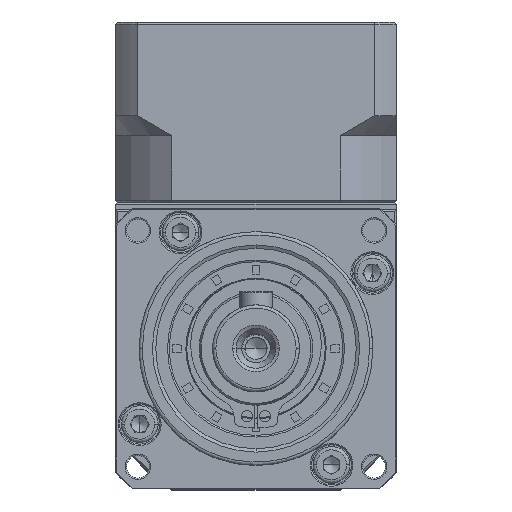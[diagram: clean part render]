
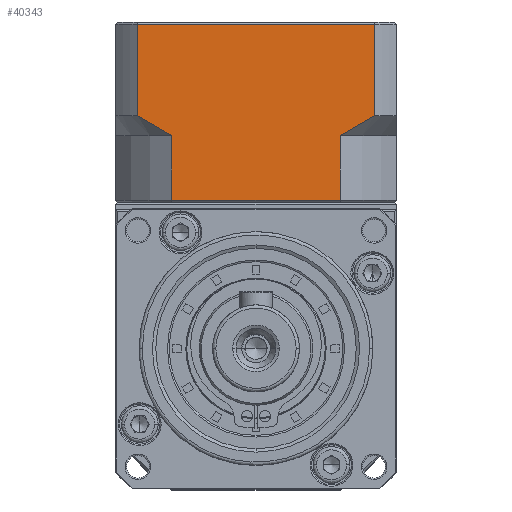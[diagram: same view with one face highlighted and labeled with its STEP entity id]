
A CAD part, top view. The second image highlights one B-rep face of the part: STEP entity #40343.
In plain terms, the highlighted planar face has unit normal (0, 0, 1).
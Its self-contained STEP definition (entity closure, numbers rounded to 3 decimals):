
#2139 = EDGE_LOOP ( 'NONE', ( #115685, #25116, #38378, #55560, #138287, #63469, #72155, #28824 ) ) ;
#6422 = EDGE_CURVE ( 'NONE', #137181, #97849, #121062, .T. ) ;
#8367 = LINE ( 'NONE', #30860, #125230 ) ;
#8723 = CARTESIAN_POINT ( 'NONE',  ( -7.901, 36.129, 88.152 ) ) ;
#8745 = DIRECTION ( 'NONE',  ( 0., 0., 1. ) ) ;
#12517 = EDGE_CURVE ( 'NONE', #34225, #97849, #51525, .T. ) ;
#18385 = LINE ( 'NONE', #116358, #74959 ) ;
#19774 = AXIS2_PLACEMENT_3D ( 'NONE', #76461, #8745, #87808 ) ;
#25116 = ORIENTED_EDGE ( 'NONE', *, *, #125843, .T. ) ;
#25703 = DIRECTION ( 'NONE',  ( -1., 0., 0. ) ) ;
#26755 = CARTESIAN_POINT ( 'NONE',  ( -36.67, 36.129, 88.152 ) ) ;
#28824 = ORIENTED_EDGE ( 'NONE', *, *, #133051, .T. ) ;
#29064 = LINE ( 'NONE', #117085, #146006 ) ;
#30860 = CARTESIAN_POINT ( 'NONE',  ( -40.041, 25.22, 88.152 ) ) ;
#30962 = PLANE ( 'NONE',  #19774 ) ;
#31646 = VERTEX_POINT ( 'NONE', #55115 ) ;
#33895 = VERTEX_POINT ( 'NONE', #120143 ) ;
#34225 = VERTEX_POINT ( 'NONE', #47255 ) ;
#38378 = ORIENTED_EDGE ( 'NONE', *, *, #12517, .T. ) ;
#40056 = DIRECTION ( 'NONE',  ( 0., 1., 0. ) ) ;
#40239 = CARTESIAN_POINT ( 'NONE',  ( -34.905, 25.52, 88.152 ) ) ;
#40343 = ADVANCED_FACE ( 'NONE', ( #104053 ), #30962, .T. ) ;
#41461 = B_SPLINE_CURVE_WITH_KNOTS ( 'NONE', 3,
 ( #99161, #8723, #110580, #42760 ),
 .UNSPECIFIED., .F., .F.,
 ( 4, 4 ),
 ( 0., 0.006 ),
 .UNSPECIFIED. ) ;
#42760 = CARTESIAN_POINT ( 'NONE',  ( -4.53, 38.22, 88.152 ) ) ;
#47255 = CARTESIAN_POINT ( 'NONE',  ( -34.905, 35.22, 88.152 ) ) ;
#48025 = VECTOR ( 'NONE', #131073, 1000. ) ;
#51525 = LINE ( 'NONE', #74555, #48025 ) ;
#53575 = DIRECTION ( 'NONE',  ( 0., -1., 0. ) ) ;
#55115 = CARTESIAN_POINT ( 'NONE',  ( -9.666, 35.22, 88.152 ) ) ;
#55560 = ORIENTED_EDGE ( 'NONE', *, *, #6422, .F. ) ;
#63469 = ORIENTED_EDGE ( 'NONE', *, *, #129511, .T. ) ;
#67689 = EDGE_CURVE ( 'NONE', #136419, #141948, #84955, .T. ) ;
#71753 = CARTESIAN_POINT ( 'NONE',  ( -38.373, 37.143, 88.152 ) ) ;
#72155 = ORIENTED_EDGE ( 'NONE', *, *, #67689, .T. ) ;
#72244 = CARTESIAN_POINT ( 'NONE',  ( -9.666, 25.52, 88.152 ) ) ;
#74555 = CARTESIAN_POINT ( 'NONE',  ( -34.905, 25.22, 88.152 ) ) ;
#74959 = VECTOR ( 'NONE', #127825, 1000. ) ;
#76461 = CARTESIAN_POINT ( 'NONE',  ( -1.285, 25.22, 88.152 ) ) ;
#80325 = VERTEX_POINT ( 'NONE', #126868 ) ;
#82570 = EDGE_CURVE ( 'NONE', #31646, #137181, #18385, .T. ) ;
#83379 = DIRECTION ( 'NONE',  ( -1., 0., 0. ) ) ;
#84955 = LINE ( 'NONE', #107885, #145281 ) ;
#87808 = DIRECTION ( 'NONE',  ( -1., 0., 0. ) ) ;
#90878 = VECTOR ( 'NONE', #25703, 1000. ) ;
#91626 = EDGE_CURVE ( 'NONE', #33895, #80325, #8367, .T. ) ;
#97849 = VERTEX_POINT ( 'NONE', #40239 ) ;
#99161 = CARTESIAN_POINT ( 'NONE',  ( -9.666, 35.22, 88.152 ) ) ;
#104053 = FACE_OUTER_BOUND ( 'NONE', #2139, .T. ) ;
#104870 = CARTESIAN_POINT ( 'NONE',  ( -1.285, 25.52, 88.152 ) ) ;
#105923 = CARTESIAN_POINT ( 'NONE',  ( -34.905, 35.22, 88.152 ) ) ;
#107885 = CARTESIAN_POINT ( 'NONE',  ( -4.53, 25.22, 88.152 ) ) ;
#110580 = CARTESIAN_POINT ( 'NONE',  ( -6.197, 37.143, 88.152 ) ) ;
#115685 = ORIENTED_EDGE ( 'NONE', *, *, #91626, .T. ) ;
#116358 = CARTESIAN_POINT ( 'NONE',  ( -9.666, 5.055, 88.152 ) ) ;
#117085 = CARTESIAN_POINT ( 'NONE',  ( -1.285, 51.92, 88.152 ) ) ;
#118273 = CARTESIAN_POINT ( 'NONE',  ( -4.53, 51.92, 88.152 ) ) ;
#120143 = CARTESIAN_POINT ( 'NONE',  ( -40.041, 51.92, 88.152 ) ) ;
#121062 = LINE ( 'NONE', #104870, #90878 ) ;
#123676 = CARTESIAN_POINT ( 'NONE',  ( -4.53, 38.22, 88.152 ) ) ;
#125230 = VECTOR ( 'NONE', #53575, 1000. ) ;
#125843 = EDGE_CURVE ( 'NONE', #80325, #34225, #138144, .T. ) ;
#126868 = CARTESIAN_POINT ( 'NONE',  ( -40.041, 38.22, 88.152 ) ) ;
#127825 = DIRECTION ( 'NONE',  ( 0., -1., 0. ) ) ;
#129511 = EDGE_CURVE ( 'NONE', #31646, #136419, #41461, .T. ) ;
#131073 = DIRECTION ( 'NONE',  ( 0., -1., 0. ) ) ;
#133051 = EDGE_CURVE ( 'NONE', #141948, #33895, #29064, .T. ) ;
#136419 = VERTEX_POINT ( 'NONE', #123676 ) ;
#137181 = VERTEX_POINT ( 'NONE', #72244 ) ;
#138144 = B_SPLINE_CURVE_WITH_KNOTS ( 'NONE', 3,
 ( #139667, #71753, #26755, #105923 ),
 .UNSPECIFIED., .F., .F.,
 ( 4, 4 ),
 ( 0., 0.006 ),
 .UNSPECIFIED. ) ;
#138287 = ORIENTED_EDGE ( 'NONE', *, *, #82570, .F. ) ;
#139667 = CARTESIAN_POINT ( 'NONE',  ( -40.041, 38.22, 88.152 ) ) ;
#141948 = VERTEX_POINT ( 'NONE', #118273 ) ;
#145281 = VECTOR ( 'NONE', #40056, 1000. ) ;
#146006 = VECTOR ( 'NONE', #83379, 1000. ) ;
